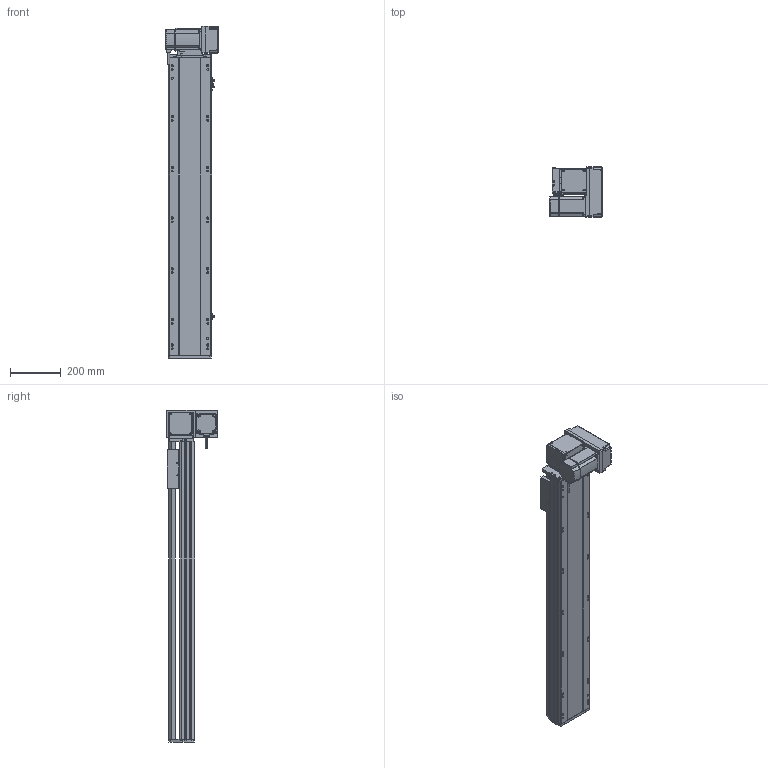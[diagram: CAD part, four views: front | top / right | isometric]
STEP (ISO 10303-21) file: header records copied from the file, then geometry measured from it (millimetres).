
FILE_DESCRIPTION (( 'STEP AP214' ), '1' );
FILE_NAME ('RTB17S-XX-900-RM-M75-C4.STEP', '2025-12-12T02:04:44', ( '' ), ( '' ), 'SwSTEP 2.0', 'SolidWorks 2018', '' );
FILE_SCHEMA (( 'AUTOMOTIVE_DESIGN' ));
Length unit declared in the file: millimetre
Products named in the file (15): RTB17S-L-004-賑釱^RTB17S-賑釱_RTB17S-XX-XX-RM-M75-C4; RTB22S-GY-017P^RTB17S-RM-々湍釱蚾饜-750W_RTB17S-XX-XX-RM-M75-C4; RTB17S-L-007奻裔^RTB17S-XX-XX-RM-M75-C4; RTB17S-L-001-耜醱啣^RTB17S-XX-XX-RM-M75-C4; RTH13-BL-012覜茼え俋离^RTB17S-賑釱_RTB17S-XX-XX-RM-M75-C4; RTB17-R-011菁釱^RTB17S-XX-XX-RM-M75-C4; EE672^RTB17S-XX-XX-RM-M75-C4; RTB17S-XX-900-RM-M75-C4; RTB17S-RM-々湍釱蚾饜-750W^RTB17S-XX-XX-RM-M75-C4; RTB17S-賑釱^RTB17S-XX-XX-RM-M75-C4; 750W萇儂^RTB17S-XX-XX-RM-M75-C4; RTB22S-GY-008-M75--萇儂啣^RTB17S-RM-々湍釱蚾饜-750W_RTB17S-XX-XX-RM-M75-C4; RTB22S-GY-005P^RTB17S-RM-々湍釱蚾饜-750W_RTB17S-XX-XX-RM-M75-C4; RTB22S-GY-018P^RTB17S-RM-々湍釱蚾饜-750W_RTB17S-XX-XX-RM-M75-C4; RTB17S-L-014-T20-P75--々湍釱^RTB17S-RM-々湍釱蚾饜-750W_RTB17S-XX-XX-RM-M75-C4
Assembly tree (17 placements, depth 3):
  RTB17S-XX-900-RM-M75-C4
    RTB17-R-011菁釱^RTB17S-XX-XX-RM-M75-C4
    EE672^RTB17S-XX-XX-RM-M75-C4  x3
    RTB17S-L-001-耜醱啣^RTB17S-XX-XX-RM-M75-C4
    RTB17S-賑釱^RTB17S-XX-XX-RM-M75-C4
      RTB17S-L-004-賑釱^RTB17S-賑釱_RTB17S-XX-XX-RM-M75-C4
      RTH13-BL-012覜茼え俋离^RTB17S-賑釱_RTB17S-XX-XX-RM-M75-C4
    RTB17S-L-007奻裔^RTB17S-XX-XX-RM-M75-C4
    750W萇儂^RTB17S-XX-XX-RM-M75-C4
    RTB17S-RM-々湍釱蚾饜-750W^RTB17S-XX-XX-RM-M75-C4
      RTB17S-L-014-T20-P75--々湍釱^RTB17S-RM-々湍釱蚾饜-750W_RTB17S-XX-XX-RM-M75-C4
      RTB22S-GY-005P^RTB17S-RM-々湍釱蚾饜-750W_RTB17S-XX-XX-RM-M75-C4
      RTB22S-GY-017P^RTB17S-RM-々湍釱蚾饜-750W_RTB17S-XX-XX-RM-M75-C4  x2
      RTB22S-GY-008-M75--萇儂啣^RTB17S-RM-々湍釱蚾饜-750W_RTB17S-XX-XX-RM-M75-C4
      RTB22S-GY-018P^RTB17S-RM-々湍釱蚾饜-750W_RTB17S-XX-XX-RM-M75-C4
Bounding box: 207.4 x 200 x 1307.5 mm (x, y, z)
Volume: 11573402.1 mm3; surface area: 1948985.5 mm2
Topology: 17 solids, 17 shells, 2089 faces, 5782 edges, 3734 vertices
Faces by surface type: plane 970, cylinder 703, bspline 294, cone 110, sphere 8, torus 4
Entity records: 58102 total; most frequent: CARTESIAN_POINT 17046, ORIENTED_EDGE 8408, DIRECTION 7862, EDGE_CURVE 4204, AXIS2_PLACEMENT_3D 2754, VERTEX_POINT 2738, LINE 2354, VECTOR 2354
